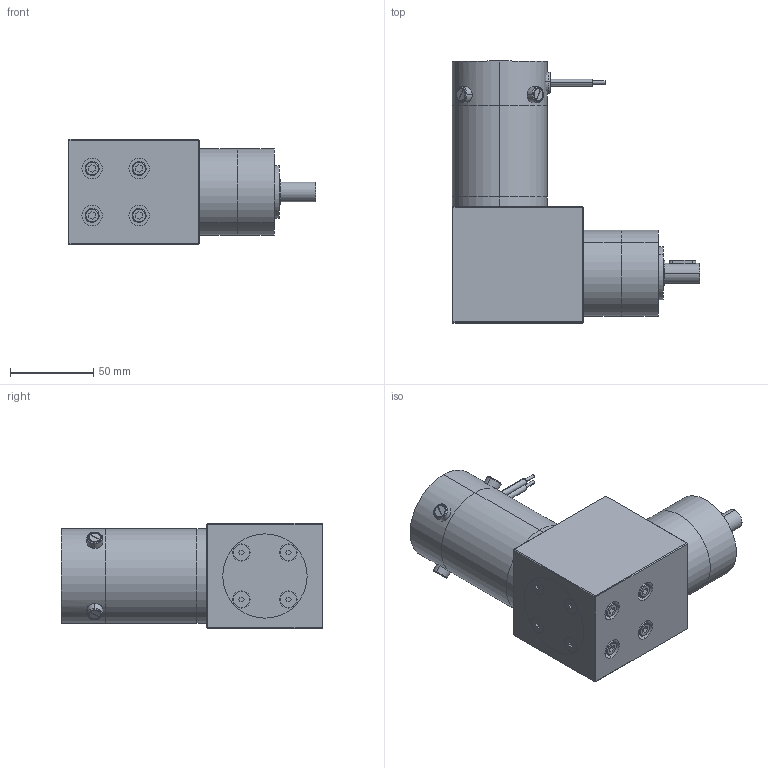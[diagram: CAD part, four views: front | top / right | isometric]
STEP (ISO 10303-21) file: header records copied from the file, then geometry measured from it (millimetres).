
FILE_DESCRIPTION (( 'STEP AP203' ), '1' );
FILE_NAME ('s22346gra1.step', '2018-12-07T19:59:27', ( '' ), ( '' ), 'SwSTEP 2.0', 'SolidWorks 2017', '' );
FILE_SCHEMA (( 'CONFIG_CONTROL_DESIGN' ));
Length unit declared in the file: inch
Products named in the file (1): s22346gra1
Bounding box: 149.17 x 157.68 x 63.5 mm (x, y, z)
Volume: 668768.5 mm3; surface area: 110803.2 mm2
Topology: 26 solids, 26 shells, 630 faces, 1355 edges, 842 vertices
Faces by surface type: plane 292, cylinder 232, cone 87, torus 11, sphere 8
Entity records: 17516 total; most frequent: CARTESIAN_POINT 3278, DIRECTION 3191, ORIENTED_EDGE 2678, EDGE_CURVE 1339, AXIS2_PLACEMENT_3D 1241, VERTEX_POINT 842, EDGE_LOOP 753, VECTOR 709
